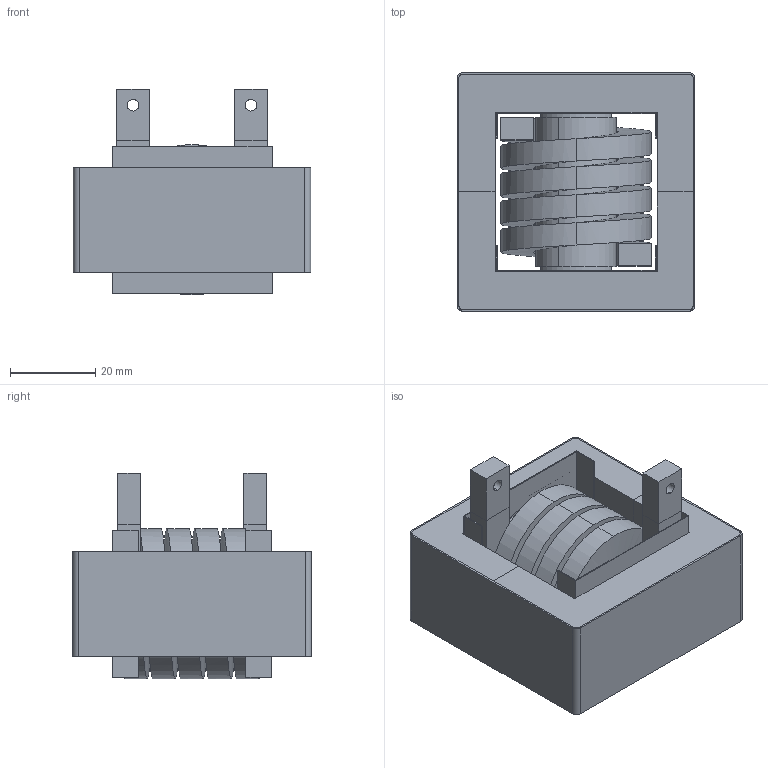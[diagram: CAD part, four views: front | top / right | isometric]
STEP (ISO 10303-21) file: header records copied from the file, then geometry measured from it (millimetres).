
FILE_DESCRIPTION (( 'STEP AP214' ), '1' );
FILE_NAME ('EK55246-4R5M-330AH.STEP', '2021-09-02T10:19:23', ( '' ), ( '' ), 'SwSTEP 2.0', 'SolidWorks 2015', '' );
FILE_SCHEMA (( 'AUTOMOTIVE_DESIGN' ));
Length unit declared in the file: millimetre
Products named in the file (6): WRAPPER; E CORE; CENTER MYLAR; HELICAL COIL; SIDE MYLAR; EK55246-4R5M-330AH
Assembly tree (7 placements, depth 2):
  EK55246-4R5M-330AH
    HELICAL COIL
    E CORE  x2
    SIDE MYLAR  x2
    CENTER MYLAR
    WRAPPER
Bounding box: 55.62 x 55.9 x 48.2 mm (x, y, z)
Volume: 70296.6 mm3; surface area: 47844 mm2
Topology: 9 solids, 9 shells, 284 faces, 736 edges, 488 vertices
Faces by surface type: plane 177, bspline 59, cylinder 48
Entity records: 13916 total; most frequent: CARTESIAN_POINT 6170, ORIENTED_EDGE 1328, DIRECTION 964, EDGE_CURVE 664, LINE 464, VECTOR 464, VERTEX_POINT 440, EDGE_LOOP 282
